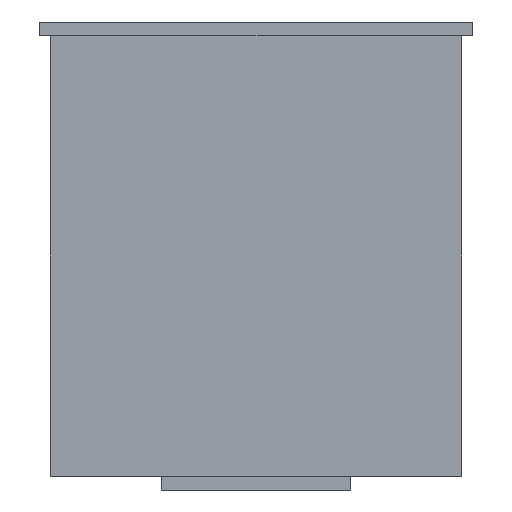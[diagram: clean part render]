
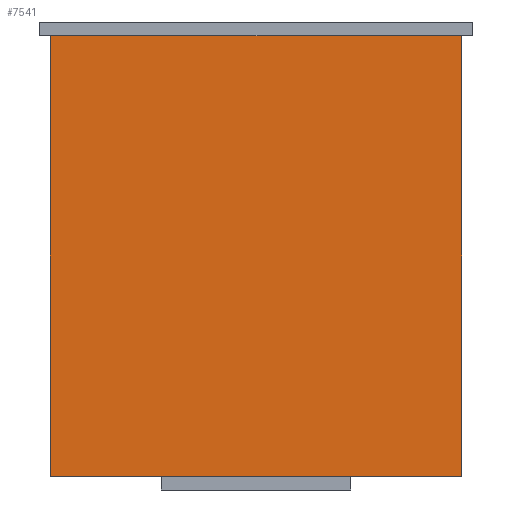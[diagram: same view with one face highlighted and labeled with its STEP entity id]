
A CAD part, front view. The second image highlights one B-rep face of the part: STEP entity #7541.
In plain terms, the highlighted planar face has unit normal (0, -1, 0).
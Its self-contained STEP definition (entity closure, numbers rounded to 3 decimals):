
#29=DIRECTION('',(-1.,0.,0.));
#30=VECTOR('',#29,152.);
#31=CARTESIAN_POINT('',(76.,-36.5,-2.5));
#32=LINE('',#31,#30);
#169=DIRECTION('',(0.,0.,-1.));
#170=VECTOR('',#169,163.);
#171=CARTESIAN_POINT('',(-76.,-36.5,-2.5));
#172=LINE('',#171,#170);
#173=DIRECTION('',(0.,0.,-1.));
#174=VECTOR('',#173,163.);
#175=CARTESIAN_POINT('',(76.,-36.5,-2.5));
#176=LINE('',#175,#174);
#1925=DIRECTION('',(-1.,0.,0.));
#1926=VECTOR('',#1925,152.);
#1927=CARTESIAN_POINT('',(76.,-36.5,-165.5));
#1928=LINE('',#1927,#1926);
#5473=CARTESIAN_POINT('',(-76.,-36.5,-165.5));
#5475=VERTEX_POINT('',#5473);
#5479=CARTESIAN_POINT('',(76.,-36.5,-165.5));
#5480=VERTEX_POINT('',#5479);
#5481=CARTESIAN_POINT('',(-76.,-36.5,-2.5));
#5483=VERTEX_POINT('',#5481);
#5487=CARTESIAN_POINT('',(76.,-36.5,-2.5));
#5488=VERTEX_POINT('',#5487);
#7528=CARTESIAN_POINT('',(76.,-36.5,-2.5));
#7529=DIRECTION('',(0.,-1.,0.));
#7530=DIRECTION('',(-1.,0.,0.));
#7531=AXIS2_PLACEMENT_3D('',#7528,#7529,#7530);
#7532=PLANE('',#7531);
#7533=ORIENTED_EDGE('',*,*,#7294,.F.);
#7535=ORIENTED_EDGE('',*,*,#7534,.T.);
#7537=ORIENTED_EDGE('',*,*,#7536,.T.);
#7538=ORIENTED_EDGE('',*,*,#7519,.F.);
#7539=EDGE_LOOP('',(#7533,#7535,#7537,#7538));
#7540=FACE_OUTER_BOUND('',#7539,.F.);
#7541=ADVANCED_FACE('',(#7540),#7532,.T.);
#7294=EDGE_CURVE('',#5488,#5483,#32,.T.);
#7519=EDGE_CURVE('',#5483,#5475,#172,.T.);
#7534=EDGE_CURVE('',#5488,#5480,#176,.T.);
#7536=EDGE_CURVE('',#5480,#5475,#1928,.T.);
